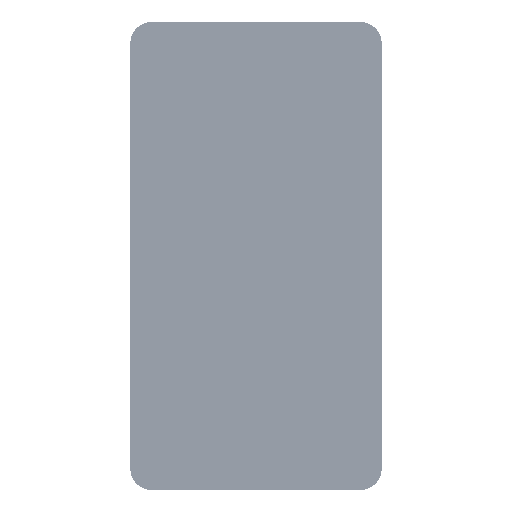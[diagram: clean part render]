
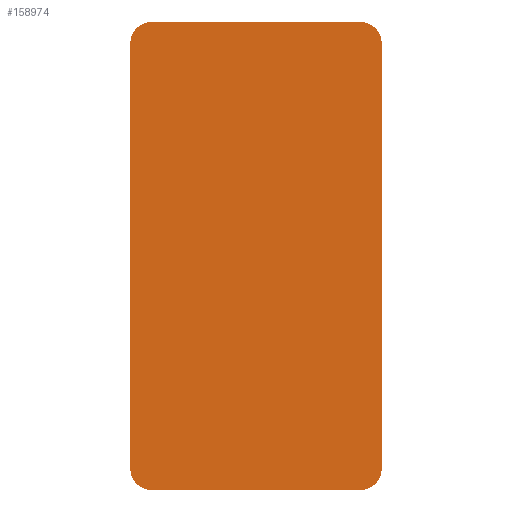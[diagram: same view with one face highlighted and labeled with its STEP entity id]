
A CAD part, front view. The second image highlights one B-rep face of the part: STEP entity #158974.
In plain terms, the highlighted planar face has unit normal (0, -1, 0) as drawn and (0, 0, 1) by its records, which use the part's own axes.
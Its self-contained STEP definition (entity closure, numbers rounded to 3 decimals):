
#15255=PLANE('',#170449);
#25967=FACE_OUTER_BOUND('',#35209,.T.);
#35209=EDGE_LOOP('',(#149678,#149679,#149680,#149681,#149682,#149683,#149684,
#149685));
#52440=LINE('',#283956,#69801);
#52453=LINE('',#283984,#69814);
#52456=LINE('',#283993,#69817);
#52484=LINE('',#284052,#69845);
#69801=VECTOR('',#207235,10.);
#69814=VECTOR('',#207258,10.);
#69817=VECTOR('',#207267,10.);
#69845=VECTOR('',#207333,10.);
#71186=CIRCLE('',#170419,5.);
#71189=CIRCLE('',#170425,5.);
#71190=CIRCLE('',#170428,5.);
#71191=CIRCLE('',#170431,5.);
#85415=VERTEX_POINT('',#283943);
#85416=VERTEX_POINT('',#283944);
#85420=VERTEX_POINT('',#283954);
#85428=VERTEX_POINT('',#283976);
#85430=VERTEX_POINT('',#283982);
#85431=VERTEX_POINT('',#283986);
#85432=VERTEX_POINT('',#283987);
#85433=VERTEX_POINT('',#283992);
#106886=EDGE_CURVE('',#85415,#85416,#71186,.T.);
#106892=EDGE_CURVE('',#85415,#85420,#52440,.T.);
#106903=EDGE_CURVE('',#85428,#85420,#71189,.T.);
#106907=EDGE_CURVE('',#85428,#85430,#52453,.T.);
#106908=EDGE_CURVE('',#85431,#85432,#71190,.T.);
#106911=EDGE_CURVE('',#85433,#85432,#52456,.T.);
#106916=EDGE_CURVE('',#85433,#85430,#71191,.T.);
#106941=EDGE_CURVE('',#85431,#85416,#52484,.T.);
#149678=ORIENTED_EDGE('',*,*,#106886,.F.);
#149679=ORIENTED_EDGE('',*,*,#106892,.T.);
#149680=ORIENTED_EDGE('',*,*,#106903,.F.);
#149681=ORIENTED_EDGE('',*,*,#106907,.T.);
#149682=ORIENTED_EDGE('',*,*,#106916,.F.);
#149683=ORIENTED_EDGE('',*,*,#106911,.T.);
#149684=ORIENTED_EDGE('',*,*,#106908,.F.);
#149685=ORIENTED_EDGE('',*,*,#106941,.T.);
#158974=ADVANCED_FACE('',(#25967),#15255,.T.);
#170419=AXIS2_PLACEMENT_3D('',#283945,#207225,#207226);
#170425=AXIS2_PLACEMENT_3D('',#283977,#207251,#207252);
#170428=AXIS2_PLACEMENT_3D('',#283988,#207261,#207262);
#170431=AXIS2_PLACEMENT_3D('',#284001,#207274,#207275);
#170449=AXIS2_PLACEMENT_3D('',#284053,#207334,#207335);
#207225=DIRECTION('center_axis',(0.,0.,-1.));
#207226=DIRECTION('ref_axis',(0.707,0.707,0.));
#207235=DIRECTION('',(-1.,0.,0.));
#207251=DIRECTION('center_axis',(0.,0.,-1.));
#207252=DIRECTION('ref_axis',(-0.707,0.707,0.));
#207258=DIRECTION('',(0.,-1.,0.));
#207261=DIRECTION('center_axis',(0.,0.,-1.));
#207262=DIRECTION('ref_axis',(0.707,-0.707,0.));
#207267=DIRECTION('',(1.,0.,0.));
#207274=DIRECTION('center_axis',(0.,0.,-1.));
#207275=DIRECTION('ref_axis',(-0.707,-0.707,0.));
#207333=DIRECTION('',(0.,1.,0.));
#207334=DIRECTION('center_axis',(0.,0.,1.));
#207335=DIRECTION('ref_axis',(1.,0.,0.));
#283943=CARTESIAN_POINT('',(42.046,2.5,3.));
#283944=CARTESIAN_POINT('',(47.046,-2.5,3.));
#283945=CARTESIAN_POINT('Origin',(42.046,-2.5,3.));
#283954=CARTESIAN_POINT('',(-7.046,2.5,3.));
#283956=CARTESIAN_POINT('',(47.046,2.5,3.));
#283976=CARTESIAN_POINT('',(-12.046,-2.5,3.));
#283977=CARTESIAN_POINT('Origin',(-7.046,-2.5,3.));
#283982=CARTESIAN_POINT('',(-12.046,-102.5,3.));
#283984=CARTESIAN_POINT('',(-12.046,2.5,3.));
#283986=CARTESIAN_POINT('',(47.046,-102.5,3.));
#283987=CARTESIAN_POINT('',(42.046,-107.5,3.));
#283988=CARTESIAN_POINT('Origin',(42.046,-102.5,3.));
#283992=CARTESIAN_POINT('',(-7.046,-107.5,3.));
#283993=CARTESIAN_POINT('',(-12.046,-107.5,3.));
#284001=CARTESIAN_POINT('Origin',(-7.046,-102.5,3.));
#284052=CARTESIAN_POINT('',(47.046,-107.5,3.));
#284053=CARTESIAN_POINT('Origin',(17.5,-52.5,3.));
